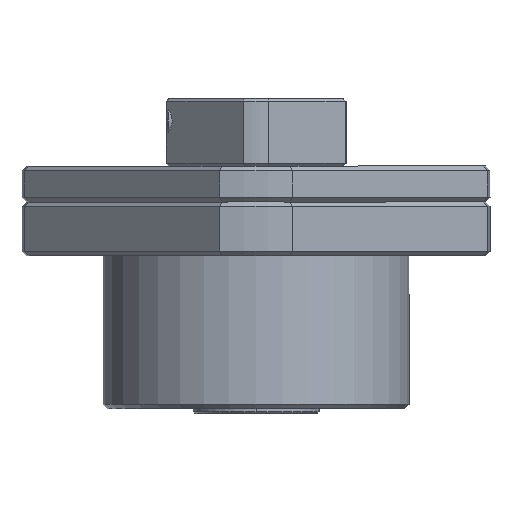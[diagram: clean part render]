
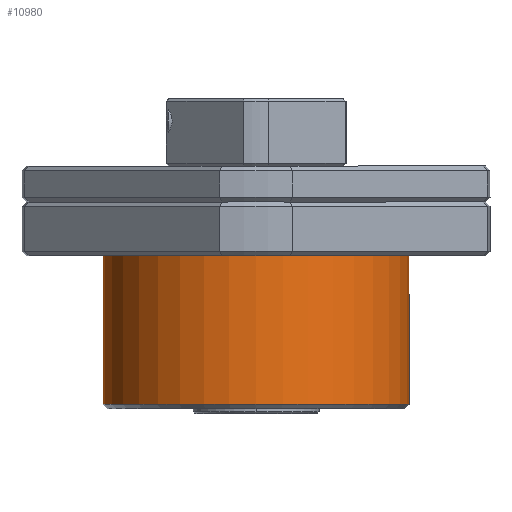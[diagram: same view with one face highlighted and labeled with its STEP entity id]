
A CAD part, left-side view. The second image highlights one B-rep face of the part: STEP entity #10980.
In plain terms, the highlighted cylindrical face has radius 17 mm (diameter 34 mm), a partial arc.
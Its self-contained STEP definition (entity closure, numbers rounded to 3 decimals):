
#66 = VECTOR ( 'NONE', #4993, 1000. ) ;
#140 = EDGE_CURVE ( 'NONE', #9838, #810, #4991, .T. ) ;
#285 = EDGE_CURVE ( 'NONE', #884, #811, #5438, .T. ) ;
#611 = EDGE_CURVE ( 'NONE', #810, #811, #11766, .T. ) ;
#622 = EDGE_CURVE ( 'NONE', #884, #9838, #11768, .T. ) ;
#810 = VERTEX_POINT ( 'NONE', #3526 ) ;
#811 = VERTEX_POINT ( 'NONE', #3527 ) ;
#884 = VERTEX_POINT ( 'NONE', #3600 ) ;
#1036 = ORIENTED_EDGE ( 'NONE', *, *, #285, .F. ) ;
#2969 = CARTESIAN_POINT ( 'NONE',  ( 0., 0., -11. ) ) ;
#2970 = DIRECTION ( 'NONE',  ( 0., 0., 1. ) ) ;
#2971 = DIRECTION ( 'NONE',  ( 0., 1., 0. ) ) ;
#3003 = CARTESIAN_POINT ( 'NONE',  ( 0., 0., 5.5 ) ) ;
#3004 = DIRECTION ( 'NONE',  ( 0., 0., -1. ) ) ;
#3005 = DIRECTION ( 'NONE',  ( 0., -1., 0. ) ) ;
#3526 = CARTESIAN_POINT ( 'NONE',  ( 0., 17., -11. ) ) ;
#3527 = CARTESIAN_POINT ( 'NONE',  ( 0., -17., -11. ) ) ;
#3600 = CARTESIAN_POINT ( 'NONE',  ( 0., -17., 5.5 ) ) ;
#3865 = CARTESIAN_POINT ( 'NONE',  ( 0., 17., 5.5 ) ) ;
#4525 = CARTESIAN_POINT ( 'NONE',  ( 0., 0., -11.5 ) ) ;
#4526 = DIRECTION ( 'NONE',  ( 0., 0., -1. ) ) ;
#4527 = DIRECTION ( 'NONE',  ( 0., -1., 0. ) ) ;
#4991 = LINE ( 'NONE', #4992, #66 ) ;
#4992 = CARTESIAN_POINT ( 'NONE',  ( 0., 17., -11.5 ) ) ;
#4993 = DIRECTION ( 'NONE',  ( 0., 0., -1. ) ) ;
#5438 = LINE ( 'NONE', #5439, #8928 ) ;
#5439 = CARTESIAN_POINT ( 'NONE',  ( 0., -17., -11.5 ) ) ;
#5440 = DIRECTION ( 'NONE',  ( 0., 0., -1. ) ) ;
#8138 = FACE_OUTER_BOUND ( 'NONE', #10690, .T. ) ;
#8141 = AXIS2_PLACEMENT_3D ( 'NONE', #4525, #4526, #4527 ) ;
#8142 = CYLINDRICAL_SURFACE ( 'NONE', #8141, 17. ) ;
#8928 = VECTOR ( 'NONE', #5440, 1000. ) ;
#9487 = AXIS2_PLACEMENT_3D ( 'NONE', #2969, #2970, #2971 ) ;
#9503 = AXIS2_PLACEMENT_3D ( 'NONE', #3003, #3004, #3005 ) ;
#9838 = VERTEX_POINT ( 'NONE', #3865 ) ;
#10270 = ORIENTED_EDGE ( 'NONE', *, *, #622, .T. ) ;
#10273 = ORIENTED_EDGE ( 'NONE', *, *, #611, .T. ) ;
#10399 = ORIENTED_EDGE ( 'NONE', *, *, #140, .T. ) ;
#10690 = EDGE_LOOP ( 'NONE', ( #10270, #10399, #10273, #1036 ) ) ;
#10980 = ADVANCED_FACE ( 'NONE', ( #8138 ), #8142, .T. ) ;
#11766 = CIRCLE ( 'NONE', #9487, 17. ) ;
#11768 = CIRCLE ( 'NONE', #9503, 17. ) ;
